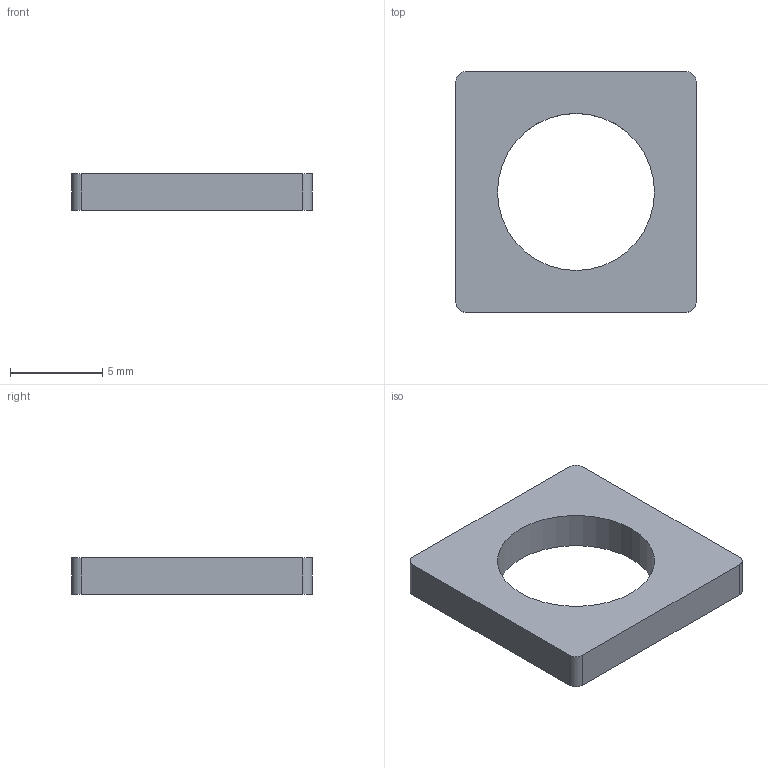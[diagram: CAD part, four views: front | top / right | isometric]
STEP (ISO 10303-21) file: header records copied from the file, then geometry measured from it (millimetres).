
FILE_DESCRIPTION (( 'STEP AP214' ), '1' );
FILE_NAME ('1.2029 Aluslevy M8.STEP', '2025-09-05T09:59:09', ( '' ), ( '' ), 'SwSTEP 2.0', 'SolidWorks 2025', '' );
FILE_SCHEMA (( 'AUTOMOTIVE_DESIGN' ));
Length unit declared in the file: millimetre
Products named in the file (1): 1.2029 Aluslevy M8
Bounding box: 13 x 13 x 2 mm (x, y, z)
Volume: 224.1 mm3; surface area: 379.8 mm2
Topology: 1 solids, 1 shells, 12 faces, 30 edges, 20 vertices
Faces by surface type: cylinder 6, plane 6
Entity records: 393 total; most frequent: DIRECTION 68, CARTESIAN_POINT 63, ORIENTED_EDGE 60, EDGE_CURVE 30, AXIS2_PLACEMENT_3D 25, VERTEX_POINT 20, VECTOR 18, LINE 18
